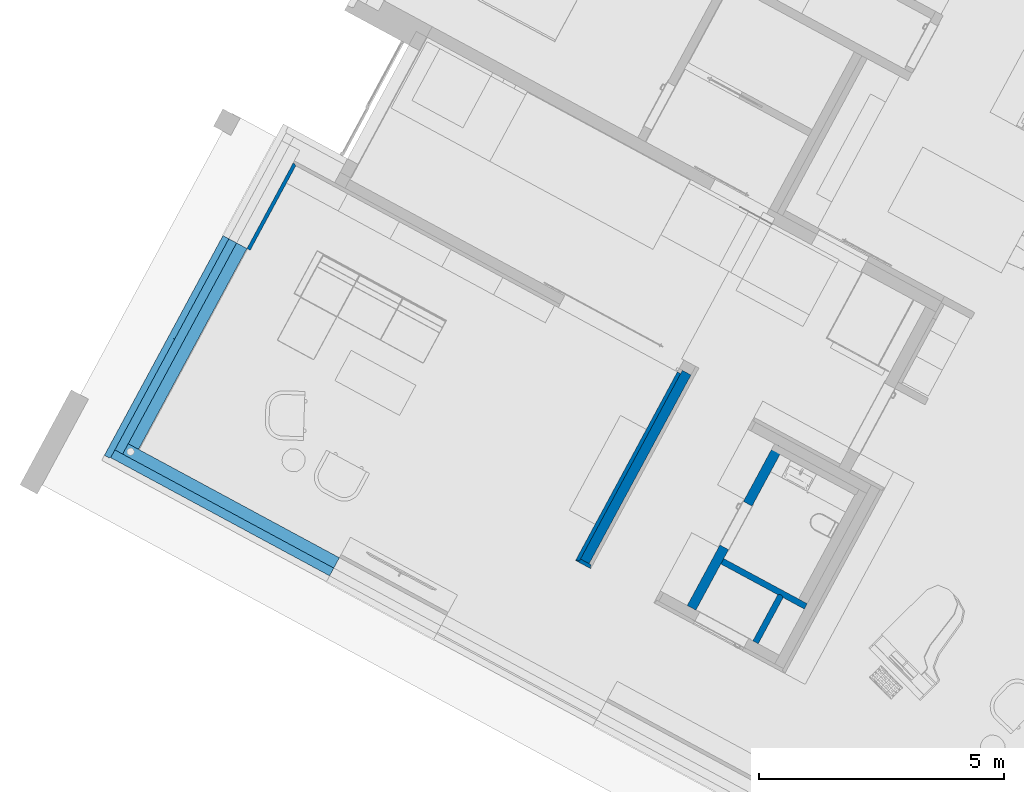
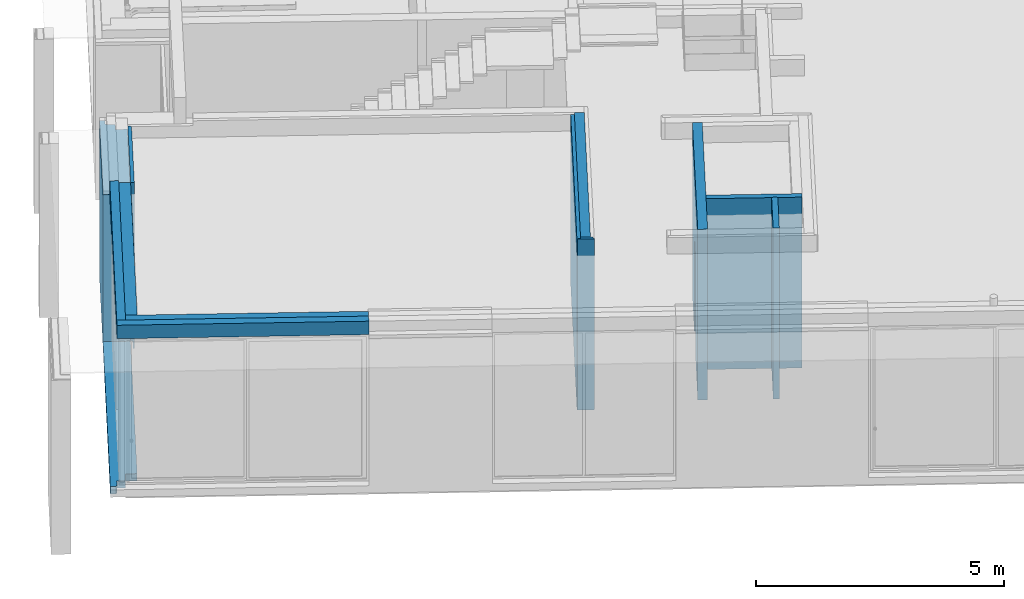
# One storey, part 5 of 52: 10 walls, 2 openings.
"""IFC2X3 building model written with IfcOpenShell, lengths in metres."""

from ifc_helpers import new_model, entity, si_unit, converted_unit, derived_unit, money_unit, direction, frame, origin_with_axes, origin_2d_with_axis, place, context, subcontext, project, spatial, rectangle, extrude, faceted_brep, material, material_list, type_object, element, save


model = new_model("IFC2X3")

# Units and contexts
model_context = context("Model", 3, precision=1e-05, world=origin_with_axes(), true_north=direction((0.0, 1.0)))
body_context = subcontext(model_context, "Body", "Model", "MODEL_VIEW")
ifc_project = project(units=[si_unit("LENGTHUNIT", "METRE"), si_unit("AREAUNIT", "SQUARE_METRE"), si_unit("VOLUMEUNIT", "CUBIC_METRE"), converted_unit("PLANEANGLEUNIT", "DEGREE", entity("IfcPlaneAngleMeasure", 0.0174532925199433), si_unit("PLANEANGLEUNIT", "RADIAN"), dimensions=[0, 0, 0, 0, 0, 0, 0]), money_unit("EUR"), converted_unit("TIMEUNIT", "Year", entity("IfcTimeMeasure", 31556926.0), si_unit("TIMEUNIT", "SECOND"), dimensions=[0, 0, 1, 0, 0, 0, 0]), si_unit("MASSUNIT", "GRAM", prefix="KILO"), si_unit("THERMODYNAMICTEMPERATUREUNIT", "DEGREE_CELSIUS"), si_unit("LUMINOUSINTENSITYUNIT", "LUMEN"), si_unit("ENERGYUNIT", "JOULE", prefix="MEGA"), derived_unit("THERMALCONDUCTANCEUNIT", [(si_unit("POWERUNIT", "WATT"), 1), (si_unit("LENGTHUNIT", "METRE"), -1), (si_unit("THERMODYNAMICTEMPERATUREUNIT", "KELVIN"), -1)]), derived_unit("SPECIFICHEATCAPACITYUNIT", [(si_unit("ENERGYUNIT", "JOULE"), 1), (si_unit("MASSUNIT", "GRAM", prefix="KILO"), -1), (si_unit("THERMODYNAMICTEMPERATUREUNIT", "KELVIN"), -1)]), derived_unit("MASSDENSITYUNIT", [(si_unit("MASSUNIT", "GRAM", prefix="KILO"), 1), (si_unit("VOLUMEUNIT", "CUBIC_METRE"), -1)])], contexts=[model_context])

# Site, building, storey
site_placement = place(None, frame((-3.949935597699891, 1.740105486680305, 0.0), z_axis=(0.0, 0.0, 1.0), x_axis=(0.8799804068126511, -0.475009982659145, 0.0)))
site = spatial("IfcSite", under=ifc_project, at=site_placement, Name="Gelände", CompositionType="ELEMENT")
building_placement = place(site_placement, origin_with_axes())
building = spatial("IfcBuilding", under=site, at=building_placement, Name="Gebäude", CompositionType="ELEMENT")
storey_placement = place(building_placement, origin_with_axes())
storey = spatial("IfcBuildingStorey", under=building, at=storey_placement, Name="Erdgeschoss", CompositionType="ELEMENT", Elevation=0.0)

# Wall, opening
ifc_material_1 = material(Name="_SIWH - Beton, Stahlbeton")
ifc_material_2 = material(Name="_SIWH - Dämmung, weich Mineralwolle")
ifc_material_3 = material(Name="_SIWH - Luftschicht vertikal")
ifc_material_4 = material(Name="_SIWH - MW Vormauerziegel")
ifc_material_list_1 = material_list([ifc_material_1, ifc_material_2, ifc_material_3, ifc_material_4])
wall_type_1 = type_object("IfcWallType", Name="_SIWH - WA | Stb. 24+WD 18+LS 2+Verblender 11,5 | 55,5cm 555", PredefinedType="NOTDEFINED")
wall_1_placement = place(storey_placement, frame((4.18253025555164, 7.393034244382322, -0.1800000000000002), z_axis=(0.0, 0.0, 1.0), x_axis=(-5.644435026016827e-07, -0.9999999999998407, 0.0)))
wall_1 = element("IfcWall", 1, at=wall_1_placement, inside=storey, type_object=wall_type_1, material=ifc_material_list_1, Name="A-Wand026", context=body_context, shape_type="Brep", body=[
    faceted_brep([(2.273035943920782, -1.788141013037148e-08, 3.799999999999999), (2.273035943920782, 0.1249999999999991, 3.799999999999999), (2.273035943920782, 0.2400000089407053, 3.799999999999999), (-1.354664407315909e-07, 0.2399999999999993, 3.799999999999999), (0.0, 0.0, 3.799999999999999), (2.273035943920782, 0.0, 0.1800000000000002), (2.273035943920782, 0.1249999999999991, 0.1800000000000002), (2.273035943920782, 0.2400000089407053, 0.18), (6.928037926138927, 0.2400000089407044, 0.18), (6.92803793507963, 0.2399999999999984, 0.0), (-1.354664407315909e-07, 0.2399999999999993, 0.0), (0.0, 0.0, 0.0), (6.928037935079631, 0.0, 0.0), (6.928037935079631, 0.0, 0.1800000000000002), (6.928037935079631, 0.1249999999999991, 0.1800000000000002)], [[[0, 1, 2, 3, 4]], [[1, 0, 5, 6]], [[7, 2, 1, 6]], [[7, 8, 9, 10, 3, 2]], [[4, 3, 10, 11]], [[5, 0, 4, 11, 12, 13]], [[13, 14, 6, 5]], [[8, 7, 6, 14]], [[14, 13, 12, 9, 8]], [[10, 9, 12, 11]]]),
    faceted_brep([(2.273035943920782, -0.1800000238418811, 3.799999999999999), (2.273035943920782, -1.788141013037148e-08, 3.799999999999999), (-0.180000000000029, 0.0, 3.799999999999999), (-0.1799998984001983, -0.1799999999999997, 3.799999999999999), (2.273035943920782, 0.0, 0.1800000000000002), (2.273035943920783, -0.1800000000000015, 0.1800000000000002), (7.168037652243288, -2.828350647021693e-07, 0.1800000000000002), (7.168037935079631, 0.0, 0.0), (-0.180000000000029, 0.0, 0.0), (-0.1799998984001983, -0.1799999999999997, 0.0), (7.168037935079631, -0.1800000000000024, 0.0), (7.168037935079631, -0.1800000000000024, 0.1800000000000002)], [[[0, 1, 2, 3]], [[4, 1, 0, 5]], [[4, 6, 7, 8, 2, 1]], [[3, 2, 8, 9]], [[5, 0, 3, 9, 10, 11]], [[6, 4, 5, 11]], [[6, 11, 10, 7]], [[8, 7, 10, 9]]]),
    faceted_brep([(2.273035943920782, -0.20000001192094, 3.799999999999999), (2.273035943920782, -0.1800000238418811, 3.799999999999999), (-0.1999998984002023, -0.1800000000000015, 3.799999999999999), (-0.199999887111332, -0.2000000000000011, 3.799999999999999), (2.273035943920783, -0.1799999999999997, 0.1800000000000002), (2.273035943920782, -0.200000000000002, 0.1800000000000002), (7.348037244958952, -0.1800006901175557, 0.1800000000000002), (7.34803793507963, -0.1800000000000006, 0.0), (-0.1999998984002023, -0.1800000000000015, 0.0), (-0.199999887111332, -0.2000000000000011, 0.0), (7.348037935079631, -0.2000000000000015, 0.0), (7.348037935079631, -0.2000000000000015, 0.1800000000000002)], [[[0, 1, 2, 3]], [[4, 1, 0, 5]], [[4, 6, 7, 8, 2, 1]], [[3, 2, 8, 9]], [[5, 0, 3, 9, 10, 11]], [[6, 4, 5, 11]], [[6, 11, 10, 7]], [[8, 7, 10, 9]]]),
    faceted_brep([(2.273035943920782, -0.3149999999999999, 3.799999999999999), (2.273035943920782, -0.20000001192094, 3.799999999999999), (-0.31499988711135, -0.2000000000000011, 3.799999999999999), (-0.3149998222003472, -0.3150000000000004, 3.799999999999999), (2.273035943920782, -0.200000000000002, 0.1800000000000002), (2.273035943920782, -0.3149999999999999, 0.1800000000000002), (7.368037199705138, -0.2000007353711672, 0.1800000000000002), (7.368037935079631, -0.200000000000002, 0.0), (-0.31499988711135, -0.2000000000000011, 0.0), (-0.3149998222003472, -0.3150000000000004, 0.0), (7.368037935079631, -0.3150000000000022, 0.0), (7.368037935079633, -0.3150000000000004, 0.1800000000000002)], [[[0, 1, 2, 3]], [[4, 1, 0, 5]], [[4, 6, 7, 8, 2, 1]], [[3, 2, 8, 9]], [[5, 0, 3, 9, 10, 11]], [[6, 4, 5, 11]], [[6, 11, 10, 7]], [[8, 7, 10, 9]]]),
])
opening_1_placement = place(wall_1_placement, frame((4.623035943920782, 0.0, 0.1800000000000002), z_axis=(0.0, 0.0, 1.0), x_axis=(1.0, 0.0, 0.0)))
element("IfcOpeningElement", 2, at=opening_1_placement, cuts=wall_1, Name="Fenster-014", context=body_context, shape_type="Brep", body=[
    faceted_brep([(2.420001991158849, 0.1249999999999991, 3.619999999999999), (-2.350000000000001, 0.1249999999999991, 3.619999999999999), (-2.350000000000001, -0.3160040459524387, 3.619999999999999), (2.86, -0.31600404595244, 3.619999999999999), (2.86, -0.3149980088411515, 3.619999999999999), (2.30399794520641, 0.2410040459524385, 3.619999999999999), (-2.350000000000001, 0.2410040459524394, 3.619999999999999), (-2.350000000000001, 0.1249999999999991, 0.0), (-2.350000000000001, -0.3160040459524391, 0.0), (2.86, -0.31600404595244, 0.0), (2.86, -0.3149980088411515, 0.0), (2.420001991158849, 0.1249999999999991, 0.0), (2.30399794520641, 0.2410040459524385, 0.0), (-2.350000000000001, 0.2410040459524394, 0.0)], [[[0, 1, 2, 3, 4]], [[1, 0, 5, 6]], [[1, 7, 8, 2]], [[2, 8, 9, 3]], [[4, 3, 9, 10]], [[4, 10, 11, 12, 5, 0]], [[12, 13, 6, 5]], [[7, 1, 6, 13]], [[7, 11, 10, 9, 8]], [[11, 7, 13, 12]]]),
])

# Walls
ifc_material_list_2 = material_list([ifc_material_1, ifc_material_2])
wall_type_2 = type_object("IfcWallType", Name="_SIWH - WA | Stb. 24+WD 18 | 42cm 420", PredefinedType="NOTDEFINED")
wall_2_placement = place(storey_placement, frame((4.182529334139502, 0.2249853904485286, 3.619999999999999), z_axis=(0.0, 0.0, 1.0), x_axis=(0.9999999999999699, -2.452875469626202e-07, 0.0)))
element("IfcWall", 3, at=wall_2_placement, inside=storey, type_object=wall_type_2, material=ifc_material_list_2, Name="A-Wand007", context=body_context, shape_type="Brep", body=[
    faceted_brep([(0.0, 0.0, 0.0), (-7.65974359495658e-08, 0.2400000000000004, 0.0), (4.894951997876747, 0.2400000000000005, 0.0), (4.894951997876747, 0.0, 0.0), (0.181389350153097, 0.07534308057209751, 0.0), (0.1921843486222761, 0.09652947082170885, 0.0), (0.1959040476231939, 0.1200147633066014, 0.0), (0.1921843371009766, 0.1435000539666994, 0.0), (0.1813893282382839, 0.1646864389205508, 0.0), (0.1645757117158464, 0.1815000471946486, 0.0), (0.143389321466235, 0.1922950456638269, 0.0), (0.1199040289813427, 0.1960147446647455, 0.0), (0.09641873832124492, 0.1922950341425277, 0.0), (0.07523235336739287, 0.1815000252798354, 0.0), (0.05841874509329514, 0.1646864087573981, 0.0), (0.04762374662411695, 0.1435000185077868, 0.0), (0.04390404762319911, 0.1200147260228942, 0.0), (0.04762375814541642, 0.0965294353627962, 0.0), (0.05841876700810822, 0.07534305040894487, 0.0), (0.07523238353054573, 0.05852944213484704, 0.0), (0.09641877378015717, 0.04773444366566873, 0.0), (0.1199040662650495, 0.04401474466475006, 0.0), (0.1433893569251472, 0.04773445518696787, 0.0), (0.1645757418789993, 0.05852946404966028, 0.0), (0.0, 2.797039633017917e-06, 0.2800000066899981), (-7.65974359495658e-08, 0.2400000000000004, 0.2800000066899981), (4.894951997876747, 0.2400000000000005, 0.2800000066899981), (4.894951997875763, 3.997710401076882e-06, 0.2800000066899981), (0.181389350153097, 0.07534308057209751, 0.1300000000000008), (0.1921843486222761, 0.09652947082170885, 0.1300000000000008), (0.1959040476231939, 0.1200147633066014, 0.1300000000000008), (0.1921843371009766, 0.1435000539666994, 0.1300000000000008), (0.1813893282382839, 0.1646864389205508, 0.1300000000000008), (0.1645757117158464, 0.1815000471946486, 0.1300000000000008), (0.143389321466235, 0.1922950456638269, 0.1300000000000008), (0.1199040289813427, 0.1960147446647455, 0.1300000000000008), (0.09641873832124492, 0.1922950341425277, 0.1300000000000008), (0.07523235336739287, 0.1815000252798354, 0.1300000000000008), (0.05841874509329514, 0.1646864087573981, 0.1300000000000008), (0.04762374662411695, 0.1435000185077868, 0.1300000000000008), (0.04390404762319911, 0.1200147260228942, 0.1300000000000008), (0.04762375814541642, 0.0965294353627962, 0.1300000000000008), (0.05841876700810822, 0.07534305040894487, 0.1300000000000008), (0.07523238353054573, 0.05852944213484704, 0.1300000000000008), (0.09641877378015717, 0.04773444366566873, 0.1300000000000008), (0.1199040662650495, 0.04401474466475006, 0.1300000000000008), (0.1433893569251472, 0.04773445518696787, 0.1300000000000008), (0.1645757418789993, 0.05852946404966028, 0.1300000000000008)], [[[0, 1, 2, 3], [4, 5, 6, 7, 8, 9, 10, 11, 12, 13, 14, 15, 16, 17, 18, 19, 20, 21, 22, 23]], [[0, 24, 25, 1]], [[1, 25, 26, 2]], [[2, 26, 27, 3]], [[3, 27, 24, 0]], [[5, 4, 28, 29]], [[6, 5, 29, 30]], [[7, 6, 30, 31]], [[8, 7, 31, 32]], [[9, 8, 32, 33]], [[10, 9, 33, 34]], [[11, 10, 34, 35]], [[12, 11, 35, 36]], [[13, 12, 36, 37]], [[14, 13, 37, 38]], [[15, 14, 38, 39]], [[16, 15, 39, 40]], [[17, 16, 40, 41]], [[18, 17, 41, 42]], [[19, 18, 42, 43]], [[20, 19, 43, 44]], [[21, 20, 44, 45]], [[22, 21, 45, 46]], [[23, 22, 46, 47]], [[4, 23, 47, 28]], [[24, 27, 26, 25]], [[40, 39, 38, 37, 36, 35, 34, 33, 32, 31, 30, 29, 28, 47, 46, 45, 44, 43, 42, 41]]]),
    faceted_brep([(-0.1800000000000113, 0.0, 0.0), (4.894951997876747, 0.0, 0.0), (4.894951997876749, -0.1799999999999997, 0.0), (-0.1799999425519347, -0.1800000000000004, 0.0), (-0.1800000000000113, 0.0, 0.330000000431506), (4.894951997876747, 0.0, 0.330000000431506), (4.894951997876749, -0.1799999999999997, 0.330000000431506), (-0.1799999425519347, -0.1800000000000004, 0.330000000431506)], [[[0, 1, 2, 3]], [[4, 5, 1, 0]], [[2, 1, 5, 6]], [[3, 2, 6, 7]], [[4, 0, 3, 7]], [[7, 6, 5, 4]]]),
])
wall_3_placement = place(storey_placement, frame((4.182528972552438, 5.120000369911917, 3.619999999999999), z_axis=(0.0, 0.0, 1.0), x_axis=(7.38684281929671e-08, -0.9999999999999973, 0.0)))
element("IfcWall", 4, at=wall_3_placement, inside=storey, type_object=wall_type_2, material=ifc_material_list_2, Name="A-Wand015", context=body_context, shape_type="Brep", body=[
    faceted_brep([(0.0, 9.055274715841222e-05, 0.330000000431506), (0.0, 9.055274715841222e-05, 0.2800000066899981), (1.772842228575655e-08, 0.2400000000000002, 0.2800000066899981), (1.772842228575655e-08, 0.2400000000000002, 0.0), (0.0, 0.0, 0.0), (0.0, 0.0, 0.330000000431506), (3.229311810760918, -2.385441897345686e-07, 0.330000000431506), (3.229311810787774, -2.385441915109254e-07, 0.2800000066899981), (4.655015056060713, 0.2399996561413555, 0.2800000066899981), (4.655014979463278, -3.438586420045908e-07, 0.2800000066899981), (4.655015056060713, 0.2399996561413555, 0.0), (4.655014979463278, -3.438586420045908e-07, 0.0)], [[[0, 1, 2, 3, 4, 5]], [[1, 0, 6, 7]], [[8, 2, 1, 7, 9]], [[2, 8, 10, 3]], [[10, 11, 4, 3]], [[7, 6, 5, 4, 11, 9]], [[6, 0, 5]], [[8, 9, 11, 10]]]),
    faceted_brep([(4.895012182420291, -4.706929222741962e-05, 0.330000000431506), (3.229311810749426, -2.385441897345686e-07, 0.330000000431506), (0.0, 0.0, 0.330000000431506), (-1.329631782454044e-08, -0.1799999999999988, 0.330000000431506), (4.89501492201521, -0.1800003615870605, 0.330000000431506), (3.229311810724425, -2.385441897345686e-07, 0.2800000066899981), (4.895012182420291, -4.706929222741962e-05, 0.2800000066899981), (4.89501218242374, -3.61586858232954e-07, 0.2800000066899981), (4.895014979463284, -3.615870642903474e-07, 0.0), (0.0, 0.0, 0.0), (-1.329631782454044e-08, -0.1799999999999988, 0.0), (4.89501492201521, -0.1800003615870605, 0.0)], [[[0, 1, 2, 3, 4]], [[5, 1, 0, 6]], [[5, 7, 8, 9, 2, 1]], [[2, 9, 10, 3]], [[11, 4, 3, 10]], [[6, 0, 4, 11, 8, 7]], [[7, 5, 6]], [[8, 11, 10, 9]]]),
])
ifc_material_5 = material(Name="_SIWH - Gipskarton")
ifc_material_list_3 = material_list([ifc_material_5, ifc_material_5, ifc_material_2, ifc_material_5, ifc_material_5])
wall_type_3 = type_object("IfcWallType", Name="_SIWH - WI | GK 2-lagig | 12,5cm 125", PredefinedType="NOTDEFINED")
wall_4_placement = place(storey_placement, frame((17.92150044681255, 4.048753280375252, -0.18), z_axis=(0.0, 0.0, 1.0), x_axis=(-1.0, 0.0, 0.0)))
element("IfcWall", 5, at=wall_4_placement, inside=storey, type_object=wall_type_3, material=ifc_material_list_3, Name="L-Wand025", context=body_context, shape_type="Brep", body=[
    faceted_brep([(0.5036079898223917, 0.0, 4.200000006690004), (0.0, 0.0, 4.200000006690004), (0.0, -0.01250000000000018, 4.200000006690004), (0.5036079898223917, -0.01250000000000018, 4.200000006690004), (0.5036079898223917, 0.0, 0.0), (0.0, 0.0, 0.0), (0.0, -0.01250000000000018, 0.0), (0.5036079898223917, -0.01250000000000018, 0.0)], [[[0, 1, 2, 3]], [[4, 5, 1, 0]], [[2, 1, 5, 6]], [[3, 2, 6, 7]], [[3, 7, 4, 0]], [[7, 6, 5, 4]]]),
    faceted_brep([(1.936022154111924, 0.0, 4.200000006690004), (0.6036079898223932, 0.0, 4.200000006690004), (0.6036079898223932, -0.01250000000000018, 4.200000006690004), (1.936022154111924, -0.01250000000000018, 4.200000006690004), (1.936022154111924, 0.0, 0.0), (0.6036079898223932, 0.0, 0.0), (0.6036079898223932, -0.01250000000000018, 0.0), (1.936022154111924, -0.01250000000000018, 0.0)], [[[0, 1, 2, 3]], [[4, 5, 1, 0]], [[2, 1, 5, 6]], [[3, 2, 6, 7]], [[3, 7, 4, 0]], [[7, 6, 5, 4]]]),
    faceted_brep([(0.516107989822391, -0.01250000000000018, 4.200000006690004), (0.0, -0.01250000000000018, 4.200000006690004), (0.0, -0.02499999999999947, 4.200000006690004), (0.516107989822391, -0.02499999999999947, 4.200000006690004), (0.516107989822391, -0.01250000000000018, 0.0), (0.0, -0.01250000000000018, 0.0), (0.0, -0.02500000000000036, 0.0), (0.516107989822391, -0.02500000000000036, 0.0)], [[[0, 1, 2, 3]], [[4, 5, 1, 0]], [[2, 1, 5, 6]], [[3, 2, 6, 7]], [[3, 7, 4, 0]], [[7, 6, 5, 4]]]),
    faceted_brep([(1.936022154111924, -0.01250000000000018, 4.200000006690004), (0.5911079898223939, -0.01250000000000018, 4.200000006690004), (0.5911079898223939, -0.02499999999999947, 4.200000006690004), (1.936022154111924, -0.02499999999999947, 4.200000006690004), (1.936022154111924, -0.01250000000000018, 0.0), (0.5911079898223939, -0.01250000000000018, 0.0), (0.5911079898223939, -0.02500000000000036, 0.0), (1.936022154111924, -0.02500000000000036, 0.0)], [[[0, 1, 2, 3]], [[4, 5, 1, 0]], [[2, 1, 5, 6]], [[3, 2, 6, 7]], [[3, 7, 4, 0]], [[7, 6, 5, 4]]]),
    faceted_brep([(1.936022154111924, -0.02499999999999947, 4.200000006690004), (0.0, -0.02499999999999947, 4.200000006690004), (0.0, -0.09999999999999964, 4.200000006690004), (1.936022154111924, -0.09999999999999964, 4.200000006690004), (1.936022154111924, -0.02500000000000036, 0.0), (0.0, -0.02500000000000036, 0.0), (0.0, -0.09999999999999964, 0.0), (1.936022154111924, -0.1000000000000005, 0.0)], [[[0, 1, 2, 3]], [[4, 5, 1, 0]], [[2, 1, 5, 6]], [[3, 2, 6, 7]], [[3, 7, 4, 0]], [[7, 6, 5, 4]]]),
    faceted_brep([(1.936022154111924, -0.09999999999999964, 4.200000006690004), (0.0, -0.09999999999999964, 4.200000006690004), (0.0, -0.1124999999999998, 4.200000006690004), (1.936022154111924, -0.1124999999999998, 4.200000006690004), (1.936022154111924, -0.1000000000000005, 0.0), (0.0, -0.09999999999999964, 0.0), (0.0, -0.1124999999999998, 0.0), (1.936022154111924, -0.1124999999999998, 0.0)], [[[0, 1, 2, 3]], [[4, 5, 1, 0]], [[2, 1, 5, 6]], [[3, 2, 6, 7]], [[3, 7, 4, 0]], [[7, 6, 5, 4]]]),
    faceted_brep([(1.936022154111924, -0.1124999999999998, 4.200000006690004), (0.0, -0.1124999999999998, 4.200000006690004), (0.0, -0.125, 4.200000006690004), (1.936022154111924, -0.125, 4.200000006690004), (1.936022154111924, -0.1124999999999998, 0.0), (0.0, -0.1124999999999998, 0.0), (0.0, -0.125, 0.0), (1.936022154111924, -0.125, 0.0)], [[[0, 1, 2, 3]], [[4, 5, 1, 0]], [[2, 1, 5, 6]], [[3, 2, 6, 7]], [[3, 7, 4, 0]], [[7, 6, 5, 4]]]),
])
wall_5_placement = place(storey_placement, frame((17.43039245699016, 4.048753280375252, -0.18), z_axis=(0.0, 0.0, 1.0), x_axis=(0.0, -1.0, 0.0)))
element("IfcWall", 6, at=wall_5_placement, inside=storey, type_object=wall_type_3, material=ifc_material_list_3, Name="L-Wand026", context=body_context, shape_type="Brep", body=[
    faceted_brep([(1.070270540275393, 0.0, 4.200000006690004), (0.0, 0.0, 4.200000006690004), (0.0, -0.01249999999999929, 4.200000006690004), (1.070270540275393, -0.01249999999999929, 4.200000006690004), (1.070270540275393, 0.0, 0.0), (0.0, 0.0, 0.0), (0.0, -0.01249999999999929, 0.0), (1.070270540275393, -0.01249999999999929, 0.0)], [[[0, 1, 2, 3]], [[4, 5, 1, 0]], [[2, 1, 5, 6]], [[3, 2, 6, 7]], [[3, 7, 4, 0]], [[7, 6, 5, 4]]]),
    faceted_brep([(1.070270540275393, -0.01249999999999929, 4.200000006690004), (-0.01250000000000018, -0.01249999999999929, 4.200000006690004), (-0.01250000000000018, -0.02499999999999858, 4.200000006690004), (1.070270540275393, -0.02499999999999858, 4.200000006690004), (1.070270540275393, -0.01249999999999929, 0.0), (-0.01250000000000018, -0.01249999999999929, 0.0), (-0.01250000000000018, -0.02499999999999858, 0.0), (1.070270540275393, -0.02499999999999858, 0.0)], [[[0, 1, 2, 3]], [[4, 5, 1, 0]], [[2, 1, 5, 6]], [[3, 2, 6, 7]], [[3, 7, 4, 0]], [[7, 6, 5, 4]]]),
    faceted_brep([(1.070270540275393, -0.02499999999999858, 4.200000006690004), (-0.02500000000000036, -0.02499999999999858, 4.200000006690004), (-0.02500000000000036, -0.1000000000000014, 4.200000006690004), (1.070270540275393, -0.1000000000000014, 4.200000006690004), (1.070270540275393, -0.02499999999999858, 0.0), (-0.02500000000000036, -0.02499999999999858, 0.0), (-0.02500000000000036, -0.1000000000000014, 0.0), (1.070270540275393, -0.1000000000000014, 0.0)], [[[0, 1, 2, 3]], [[4, 5, 1, 0]], [[2, 1, 5, 6]], [[3, 2, 6, 7]], [[3, 7, 4, 0]], [[7, 6, 5, 4]]]),
    faceted_brep([(1.070270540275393, -0.1000000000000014, 4.200000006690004), (-0.01250000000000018, -0.1000000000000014, 4.200000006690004), (-0.01250000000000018, -0.1125000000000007, 4.200000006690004), (1.070270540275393, -0.1125000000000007, 4.200000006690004), (1.070270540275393, -0.1000000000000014, 0.0), (-0.01250000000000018, -0.1000000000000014, 0.0), (-0.01250000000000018, -0.1125000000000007, 0.0), (1.070270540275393, -0.1125000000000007, 0.0)], [[[0, 1, 2, 3]], [[4, 5, 1, 0]], [[2, 1, 5, 6]], [[3, 2, 6, 7]], [[3, 7, 4, 0]], [[7, 6, 5, 4]]]),
    faceted_brep([(1.070270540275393, -0.1125000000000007, 4.200000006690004), (0.0, -0.1125000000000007, 4.200000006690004), (0.0, -0.125, 4.200000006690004), (1.070270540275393, -0.125, 4.200000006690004), (1.070270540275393, -0.1125000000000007, 0.0), (0.0, -0.1125000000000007, 0.0), (0.0, -0.125, 0.0), (1.070270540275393, -0.125, 0.0)], [[[0, 1, 2, 3]], [[4, 5, 1, 0]], [[2, 1, 5, 6]], [[3, 2, 6, 7]], [[3, 7, 4, 0]], [[7, 6, 5, 4]]]),
])
ifc_material_6 = material(Name="_SIWH - Installationswand, raumhoch")
ifc_material_list_4 = material_list([ifc_material_5, ifc_material_5, ifc_material_6])
wall_type_4 = type_object("IfcWallType", Name="_SIWH - WI | Vorsatz-GK 2-lagig | 7,5cm  75", PredefinedType="NOTDEFINED")
wall_6_placement = place(storey_placement, frame((13.41918401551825, 2.703482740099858, -0.1800000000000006), z_axis=(0.0, 0.0, 1.0), x_axis=(0.0, 1.0, 0.0)))
element("IfcWall", 7, at=wall_6_placement, inside=storey, type_object=wall_type_4, material=ifc_material_list_4, Name="L-Wand000", context=body_context, shape_type="Brep", body=[
    faceted_brep([(4.374551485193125, 0.0625, 0.0), (4.374551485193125, 0.0625, 4.200000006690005), (0.0, 0.0625, 4.200000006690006), (0.0, 0.0625, 0.0), (4.374551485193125, 0.07500000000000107, 4.200000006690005), (4.374551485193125, 0.07499999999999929, 0.0), (0.0, 0.07500000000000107, 4.200000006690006), (0.0, 0.07499999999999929, 0.0)], [[[0, 1, 2, 3]], [[4, 1, 0, 5]], [[1, 4, 6, 2]], [[3, 2, 6, 7]], [[5, 0, 3, 7]], [[4, 5, 7, 6]]]),
    faceted_brep([(4.374551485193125, 0.05000000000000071, 0.0), (4.374551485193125, 0.05000000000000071, 4.200000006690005), (0.01250000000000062, 0.05000000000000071, 4.200000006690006), (0.01250000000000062, 0.05000000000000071, 0.0), (4.374551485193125, 0.0625, 4.200000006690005), (4.374551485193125, 0.0625, 0.0), (0.01250000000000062, 0.0625, 4.200000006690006), (0.01250000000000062, 0.0625, 0.0)], [[[0, 1, 2, 3]], [[4, 1, 0, 5]], [[1, 4, 6, 2]], [[3, 2, 6, 7]], [[5, 0, 3, 7]], [[4, 5, 7, 6]]]),
    faceted_brep([(4.374551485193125, 0.05000000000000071, 3.780000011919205), (4.374551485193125, 0.0, 3.780000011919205), (4.374551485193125, 0.0, 0.1800000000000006), (4.374551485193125, 0.05000000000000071, 0.1800000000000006), (0.02499999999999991, 0.0, 3.780000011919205), (0.02499999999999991, 0.05000000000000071, 3.780000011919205), (0.02499999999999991, 0.0, 0.1800000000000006), (0.02499999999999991, 0.05000000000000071, 0.1800000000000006)], [[[0, 1, 2, 3]], [[4, 1, 0, 5]], [[1, 4, 6, 2]], [[3, 2, 6, 7]], [[5, 0, 3, 7]], [[4, 5, 7, 6]]]),
    faceted_brep([(0.02499999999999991, 0.0, 3.795000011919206), (4.374551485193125, 0.0, 3.795000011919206), (4.374551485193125, 0.0, 4.200000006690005), (0.02499999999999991, 0.0, 4.200000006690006), (4.374551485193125, 0.05000000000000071, 3.795000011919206), (0.02499999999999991, 0.05000000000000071, 3.795000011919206), (4.374551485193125, 0.05000000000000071, 4.200000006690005), (0.02499999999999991, 0.05000000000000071, 4.200000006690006)], [[[0, 1, 2, 3]], [[4, 1, 0, 5]], [[1, 4, 6, 2]], [[3, 2, 6, 7]], [[5, 0, 3, 7]], [[4, 5, 7, 6]]]),
])
wall_7_placement = place(storey_placement, frame((13.61918401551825, 2.703482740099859, -0.1800000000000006), z_axis=(0.0, 0.0, 1.0), x_axis=(-1.0, 0.0, 0.0)))
element("IfcWall", 8, at=wall_7_placement, inside=storey, type_object=wall_type_4, material=ifc_material_list_4, Name="L-Wand020", context=body_context, shape_type="Brep", body=[
    faceted_brep([(0.2624999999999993, 0.0, 4.200000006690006), (-0.07499999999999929, 0.0, 4.200000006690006), (-0.07499999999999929, -0.01249999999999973, 4.200000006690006), (0.2624999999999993, -0.01250000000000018, 4.200000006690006), (0.2624999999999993, 0.0, 0.0), (-0.07499999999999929, 0.0, 0.0), (-0.07499999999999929, -0.01250000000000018, 0.0), (0.2624999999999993, -0.01250000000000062, 0.0)], [[[0, 1, 2, 3]], [[4, 5, 1, 0]], [[2, 1, 5, 6]], [[3, 2, 6, 7]], [[3, 7, 4, 0]], [[7, 6, 5, 4]]]),
    faceted_brep([(0.25, -0.01250000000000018, 4.200000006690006), (-0.0625, -0.01249999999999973, 4.200000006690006), (-0.0625, -0.02499999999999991, 4.200000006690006), (0.25, -0.02500000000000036, 4.200000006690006), (0.25, -0.01250000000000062, 0.0), (-0.0625, -0.01250000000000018, 0.0), (-0.0625, -0.02499999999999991, 0.0), (0.25, -0.02500000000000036, 0.0)], [[[0, 1, 2, 3]], [[4, 5, 1, 0]], [[2, 1, 5, 6]], [[3, 2, 6, 7]], [[3, 7, 4, 0]], [[7, 6, 5, 4]]]),
    faceted_brep([(0.1999999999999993, -0.07500000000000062, 3.780000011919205), (-0.05000000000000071, -0.07500000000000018, 3.780000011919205), (-0.05000000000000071, -0.07500000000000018, 0.1800000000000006), (0.1999999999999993, -0.07500000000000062, 0.1800000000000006), (-0.05000000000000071, -0.02499999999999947, 3.780000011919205), (0.1999999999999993, -0.02499999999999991, 3.780000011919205), (-0.05000000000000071, -0.02499999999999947, 0.1800000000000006), (0.1999999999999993, -0.02499999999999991, 0.1800000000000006)], [[[0, 1, 2, 3]], [[4, 1, 0, 5]], [[1, 4, 6, 2]], [[3, 2, 6, 7]], [[5, 0, 3, 7]], [[4, 5, 7, 6]]]),
    faceted_brep([(-0.05000000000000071, -0.02499999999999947, 3.795000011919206), (-0.05000000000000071, -0.07500000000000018, 3.795000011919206), (-0.05000000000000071, -0.07500000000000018, 4.200000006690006), (-0.05000000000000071, -0.02499999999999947, 4.200000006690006), (0.1999999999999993, -0.07500000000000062, 3.795000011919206), (0.1999999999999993, -0.02499999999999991, 3.795000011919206), (0.1999999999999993, -0.07500000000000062, 4.200000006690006), (0.1999999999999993, -0.02499999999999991, 4.200000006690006)], [[[0, 1, 2, 3]], [[4, 1, 0, 5]], [[1, 4, 6, 2]], [[6, 7, 3, 2]], [[5, 0, 3, 7]], [[4, 5, 7, 6]]]),
])
wall_8_placement = place(storey_placement, frame((4.422528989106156, 7.153034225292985, -0.1800000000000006), z_axis=(0.0, 0.0, 1.0), x_axis=(0.0, -1.0, 0.0)))
element("IfcWall", 9, at=wall_8_placement, inside=storey, type_object=wall_type_4, material=ifc_material_list_4, Name="L-Wand003", context=body_context, shape_type="Brep", body=[
    faceted_brep([(0.07500000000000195, 0.06249999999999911, 4.080000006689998), (0.07500000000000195, 0.07500000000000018, 4.080000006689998), (0.07500000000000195, 0.07500000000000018, 0.0), (0.07500000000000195, 0.06249999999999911, 0.0), (2.033033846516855, 0.07500000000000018, 4.080000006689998), (2.033033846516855, 0.06249999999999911, 4.080000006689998), (2.033033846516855, 0.07500000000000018, 0.0), (2.033033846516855, 0.06249999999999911, 0.0)], [[[0, 1, 2, 3]], [[4, 1, 0, 5]], [[1, 4, 6, 2]], [[2, 6, 7, 3]], [[5, 0, 3, 7]], [[4, 5, 7, 6]]]),
    faceted_brep([(0.06250000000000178, 0.04999999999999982, 4.080000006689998), (0.06250000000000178, 0.06249999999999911, 4.080000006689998), (0.06250000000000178, 0.06249999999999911, 0.0), (0.06250000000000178, 0.04999999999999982, 0.0), (2.033033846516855, 0.06249999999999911, 4.080000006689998), (2.033033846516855, 0.04999999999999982, 4.080000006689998), (2.033033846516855, 0.06249999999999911, 0.0), (2.033033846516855, 0.04999999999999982, 0.0)], [[[0, 1, 2, 3]], [[4, 1, 0, 5]], [[1, 4, 6, 2]], [[2, 6, 7, 3]], [[5, 0, 3, 7]], [[4, 5, 7, 6]]]),
    faceted_brep([(0.0500000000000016, 0.0, 4.080000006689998), (0.0500000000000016, 0.04999999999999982, 4.080000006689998), (0.0500000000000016, 0.04999999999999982, 0.1800000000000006), (0.0500000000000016, 0.0, 0.1800000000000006), (2.033033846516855, 0.04999999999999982, 4.080000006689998), (2.033033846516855, 0.0, 4.080000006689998), (2.033033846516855, 0.04999999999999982, 0.1800000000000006), (2.033033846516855, 0.0, 0.1800000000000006)], [[[0, 1, 2, 3]], [[4, 1, 0, 5]], [[1, 4, 6, 2]], [[3, 2, 6, 7]], [[5, 0, 3, 7]], [[4, 5, 7, 6]]]),
])
wall_type_5 = type_object("IfcWallType", Name="_SIWH - WI | Stb. 20 | 20cm 200", PredefinedType="NOTDEFINED")
wall_9_placement = place(storey_placement, frame((13.41918401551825, 7.1530427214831, -0.1800000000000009), z_axis=(0.0, 0.0, 1.0), x_axis=(0.0, -1.0, 0.0)))
element("IfcWall", 10, at=wall_9_placement, inside=storey, type_object=wall_type_5, material=ifc_material_1, Name="I-Wand008", context=body_context, shape_type="Brep", body=[
    faceted_brep([(0.0, 0.0, 0.0), (-2.167644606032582e-07, 0.1999999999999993, 0.0), (4.374559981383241, 0.1999999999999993, 0.0), (4.374559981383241, 0.0, 0.0), (0.0, 0.0, 4.200000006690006), (-2.167644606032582e-07, 0.2000000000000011, 4.200000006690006), (4.374559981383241, 0.1999999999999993, 4.200000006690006), (4.374559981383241, 0.0, 4.200000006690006)], [[[0, 1, 2, 3]], [[4, 5, 1, 0]], [[1, 5, 6, 2]], [[7, 3, 2, 6]], [[4, 0, 3, 7]], [[5, 4, 7, 6]]]),
])

# Wall, opening
ifc_material_7 = material(Name="_SIWH - MW Kalksandstein, nichttragend")
wall_type_6 = type_object("IfcWallType", Name="_SIWH - WI | KS 20 nichttragend | 20cm 200", PredefinedType="NOTDEFINED")
wall_10_placement = place(storey_placement, frame((15.78547829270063, 6.72805330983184, -0.18), z_axis=(0.0, 0.0, 1.0), x_axis=(0.0, -1.0, 0.0)))
wall_10 = element("IfcWall", 11, at=wall_10_placement, inside=storey, type_object=wall_type_6, material=ifc_material_7, Name="L-Wand027", context=body_context, shape_type="Brep", body=[
    faceted_brep([(2.347469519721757, 0.1999999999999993, 0.18), (2.347469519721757, 0.1999999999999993, 2.44), (1.337469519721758, 0.1999999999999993, 2.44), (1.337469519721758, 0.1999999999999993, 0.18), (1.337469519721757, 0.1999999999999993, 0.0), (0.0, 0.1999999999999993, 0.0), (0.0, 0.2000000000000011, 4.200000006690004), (3.749570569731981, 0.1999999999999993, 4.200000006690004), (3.749570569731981, 0.1999999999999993, 0.0), (2.347469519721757, 0.2000000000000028, 0.0), (2.347469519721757, 0.0, 0.18), (2.347469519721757, 0.0, 2.44), (1.337469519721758, 0.0, 2.44), (1.337469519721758, 0.0, 0.18), (1.337469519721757, 0.0, 0.0), (0.0, 0.0, 0.0), (0.0, 0.0, 4.200000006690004), (3.749570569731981, 0.0, 4.200000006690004), (3.749570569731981, 0.0, 0.0), (2.347469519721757, 0.0, 0.0)], [[[0, 1, 2, 3, 4, 5, 6, 7, 8, 9]], [[1, 0, 10, 11]], [[2, 1, 11, 12]], [[3, 2, 12, 13]], [[3, 13, 14, 4]], [[4, 14, 15, 5]], [[15, 16, 6, 5]], [[17, 7, 6, 16]], [[7, 17, 18, 8]], [[19, 9, 8, 18]], [[10, 0, 9, 19]], [[11, 10, 19, 18, 17, 16, 15, 14, 13, 12]]]),
])
opening_2_placement = place(wall_10_placement, frame((1.842469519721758, 0.0, 0.18), z_axis=(0.0, 0.0, 1.0), x_axis=(1.0, 0.0, 0.0)))
element("IfcOpeningElement", 12, at=opening_2_placement, cuts=wall_10, Name="Tür-017", context=body_context, shape_type="SweptSolid", body=[
    extrude(rectangle(XDim=1.01, YDim=2.26, at=origin_2d_with_axis()), frame((0.0, 0.1999999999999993, 1.13), z_axis=(0.0, 1.0, 0.0), x_axis=(1.0, 0.0, 0.0)), (0.0, 0.0, -1.0), 0.6000000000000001),
])

save(model, "model.ifc")
